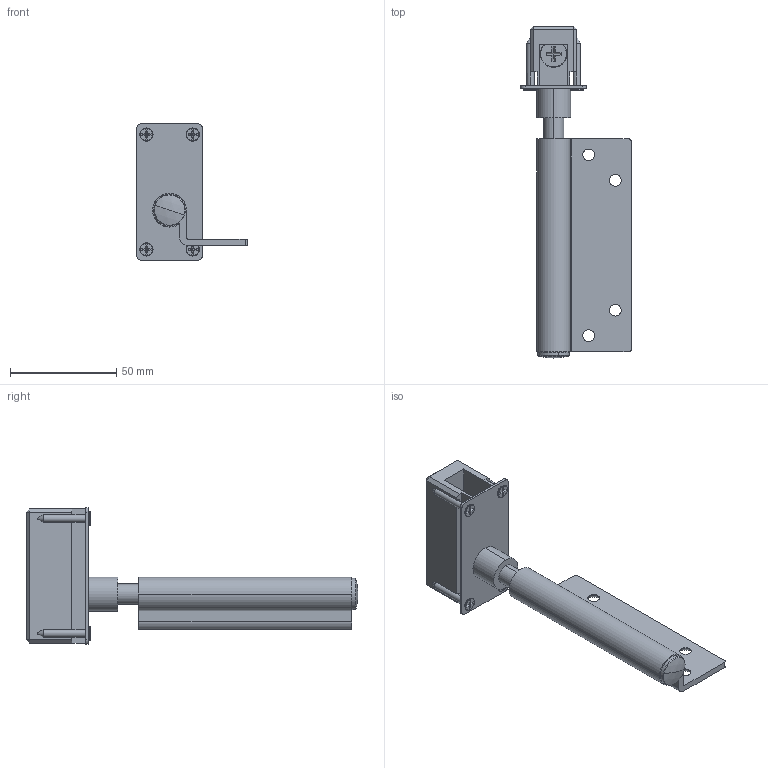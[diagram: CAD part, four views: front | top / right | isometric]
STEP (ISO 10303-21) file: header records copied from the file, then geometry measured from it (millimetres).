
FILE_DESCRIPTION (( 'STEP AP214' ), '1' );
FILE_NAME ('F3 Top Pivot - Left, Closed 05Jul2024.STEP', '2024-07-05T01:06:03', ( '' ), ( '' ), 'SwSTEP 2.0', 'SolidWorks 2023', '' );
FILE_SCHEMA (( 'AUTOMOTIVE_DESIGN' ));
Length unit declared in the file: millimetre
Products named in the file (4): F3 Top Pivot - Left, Closed 05Jul2024; Top pivot body^F3 Top Pivot; Hinge Cap^F3 Top Pivot; Offset Flap^F3 Top Pivot
Assembly tree (3 placements, depth 2):
  F3 Top Pivot - Left, Closed 05Jul2024
    Top pivot body^F3 Top Pivot
    Offset Flap^F3 Top Pivot
    Hinge Cap^F3 Top Pivot
Bounding box: 51.9 x 156 x 64 mm (x, y, z)
Volume: 68309.5 mm3; surface area: 30819.5 mm2
Topology: 3 solids, 3 shells, 183 faces, 450 edges, 281 vertices
Faces by surface type: plane 109, cylinder 34, cone 30, torus 8, sphere 2
Entity records: 5610 total; most frequent: CARTESIAN_POINT 1048, DIRECTION 953, ORIENTED_EDGE 900, EDGE_CURVE 450, AXIS2_PLACEMENT_3D 322, LINE 309, VECTOR 309, VERTEX_POINT 281
